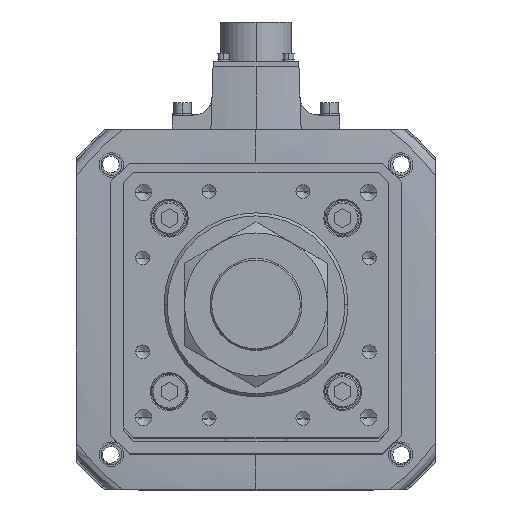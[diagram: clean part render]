
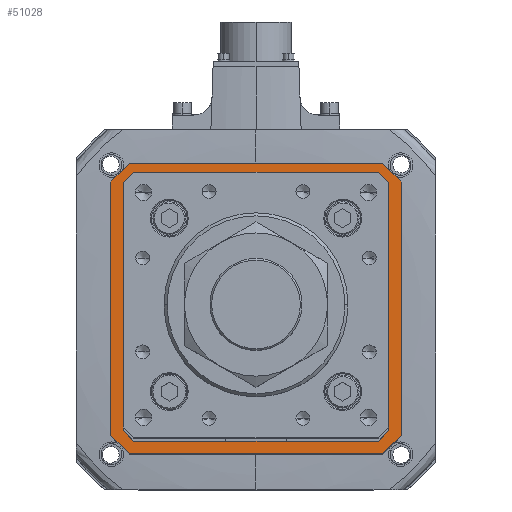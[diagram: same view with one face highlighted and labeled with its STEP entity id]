
A CAD part, top view. The second image highlights one B-rep face of the part: STEP entity #51028.
In plain terms, the highlighted planar face has unit normal (0, 0, 1).
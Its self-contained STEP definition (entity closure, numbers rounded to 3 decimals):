
#497 = EDGE_CURVE ( 'NONE', #30242, #25405, #46538, .T. ) ;
#727 = CARTESIAN_POINT ( 'NONE',  ( 0., -63., -142. ) ) ;
#962 = ORIENTED_EDGE ( 'NONE', *, *, #54569, .T. ) ;
#1192 = VECTOR ( 'NONE', #33557, 1000. ) ;
#1246 = VERTEX_POINT ( 'NONE', #19482 ) ;
#2504 = DIRECTION ( 'NONE',  ( 0.707, -0.707, 0. ) ) ;
#2941 = EDGE_LOOP ( 'NONE', ( #52284, #29735, #38946, #40662, #41504, #25655, #32197, #13533 ) ) ;
#3052 = VERTEX_POINT ( 'NONE', #31705 ) ;
#4367 = VERTEX_POINT ( 'NONE', #46190 ) ;
#5420 = CARTESIAN_POINT ( 'NONE',  ( 63., 58.793, -142. ) ) ;
#5855 = LINE ( 'NONE', #40706, #49859 ) ;
#6788 = DIRECTION ( 'NONE',  ( 1., 0., 0. ) ) ;
#8099 = DIRECTION ( 'NONE',  ( -0.707, 0.707, 0. ) ) ;
#8192 = CARTESIAN_POINT ( 'NONE',  ( 58.793, 63., -142. ) ) ;
#8259 = CARTESIAN_POINT ( 'NONE',  ( 63., 0., -142. ) ) ;
#8644 = LINE ( 'NONE', #15067, #43217 ) ;
#8793 = LINE ( 'NONE', #15358, #21443 ) ;
#9998 = CARTESIAN_POINT ( 'NONE',  ( 62., -71., -142. ) ) ;
#10630 = DIRECTION ( 'NONE',  ( 0.707, 0.707, 0. ) ) ;
#11400 = ORIENTED_EDGE ( 'NONE', *, *, #46320, .T. ) ;
#12088 = LINE ( 'NONE', #39167, #52727 ) ;
#12119 = CARTESIAN_POINT ( 'NONE',  ( 71., 62., -142. ) ) ;
#12514 = VERTEX_POINT ( 'NONE', #9998 ) ;
#12636 = EDGE_CURVE ( 'NONE', #34290, #40725, #31572, .T. ) ;
#13441 = VERTEX_POINT ( 'NONE', #39263 ) ;
#13533 = ORIENTED_EDGE ( 'NONE', *, *, #42456, .F. ) ;
#14743 = EDGE_CURVE ( 'NONE', #12514, #54793, #17352, .T. ) ;
#14955 = ORIENTED_EDGE ( 'NONE', *, *, #51066, .T. ) ;
#15067 = CARTESIAN_POINT ( 'NONE',  ( -60.896, 60.896, -142. ) ) ;
#15358 = CARTESIAN_POINT ( 'NONE',  ( -60.896, -60.896, -142. ) ) ;
#15517 = DIRECTION ( 'NONE',  ( -0.707, -0.707, 0. ) ) ;
#15874 = EDGE_CURVE ( 'NONE', #25405, #34290, #36544, .T. ) ;
#16601 = EDGE_CURVE ( 'NONE', #3052, #13441, #5855, .T. ) ;
#17147 = CARTESIAN_POINT ( 'NONE',  ( 0., 0., -142. ) ) ;
#17352 = LINE ( 'NONE', #54684, #38674 ) ;
#17877 = VECTOR ( 'NONE', #30400, 1000. ) ;
#18795 = VECTOR ( 'NONE', #27883, 1000. ) ;
#19372 = EDGE_LOOP ( 'NONE', ( #22730, #11400, #14955, #54049, #962, #32754, #44148, #22405 ) ) ;
#19482 = CARTESIAN_POINT ( 'NONE',  ( -63., 58.793, -142. ) ) ;
#19837 = VERTEX_POINT ( 'NONE', #41617 ) ;
#20559 = CARTESIAN_POINT ( 'NONE',  ( -63., -58.793, -142. ) ) ;
#20887 = AXIS2_PLACEMENT_3D ( 'NONE', #17147, #26273, #51246 ) ;
#20939 = VERTEX_POINT ( 'NONE', #8192 ) ;
#21085 = VECTOR ( 'NONE', #2504, 1000. ) ;
#21443 = VECTOR ( 'NONE', #8099, 1000. ) ;
#21551 = VECTOR ( 'NONE', #35595, 1000. ) ;
#21789 = FACE_OUTER_BOUND ( 'NONE', #2941, .T. ) ;
#21943 = LINE ( 'NONE', #37777, #27929 ) ;
#22405 = ORIENTED_EDGE ( 'NONE', *, *, #51624, .T. ) ;
#22728 = VERTEX_POINT ( 'NONE', #20559 ) ;
#22730 = ORIENTED_EDGE ( 'NONE', *, *, #30482, .T. ) ;
#23774 = LINE ( 'NONE', #43842, #25749 ) ;
#24607 = VERTEX_POINT ( 'NONE', #5420 ) ;
#25005 = CARTESIAN_POINT ( 'NONE',  ( -71., 62., -142. ) ) ;
#25018 = VERTEX_POINT ( 'NONE', #43336 ) ;
#25405 = VERTEX_POINT ( 'NONE', #48536 ) ;
#25655 = ORIENTED_EDGE ( 'NONE', *, *, #36689, .F. ) ;
#25749 = VECTOR ( 'NONE', #15517, 1000. ) ;
#26273 = DIRECTION ( 'NONE',  ( 0., 0., 1. ) ) ;
#26487 = VECTOR ( 'NONE', #34475, 1000. ) ;
#27428 = CARTESIAN_POINT ( 'NONE',  ( 62., 71., -142. ) ) ;
#27568 = VECTOR ( 'NONE', #6788, 1000. ) ;
#27883 = DIRECTION ( 'NONE',  ( 0., 1., 0. ) ) ;
#27915 = CARTESIAN_POINT ( 'NONE',  ( -62., 71., -142. ) ) ;
#27929 = VECTOR ( 'NONE', #46347, 1000. ) ;
#29106 = EDGE_CURVE ( 'NONE', #1246, #25018, #8644, .T. ) ;
#29378 = EDGE_CURVE ( 'NONE', #54793, #30242, #21943, .T. ) ;
#29726 = DIRECTION ( 'NONE',  ( -1., 0., 0. ) ) ;
#29735 = ORIENTED_EDGE ( 'NONE', *, *, #15874, .F. ) ;
#30196 = PLANE ( 'NONE',  #20887 ) ;
#30242 = VERTEX_POINT ( 'NONE', #37111 ) ;
#30400 = DIRECTION ( 'NONE',  ( 0., -1., 0. ) ) ;
#30482 = EDGE_CURVE ( 'NONE', #24607, #4367, #30547, .T. ) ;
#30547 = LINE ( 'NONE', #8259, #17877 ) ;
#31572 = LINE ( 'NONE', #40836, #27568 ) ;
#31705 = CARTESIAN_POINT ( 'NONE',  ( 71., 62., -142. ) ) ;
#32197 = ORIENTED_EDGE ( 'NONE', *, *, #16601, .F. ) ;
#32754 = ORIENTED_EDGE ( 'NONE', *, *, #29106, .T. ) ;
#33557 = DIRECTION ( 'NONE',  ( 0., 1., 0. ) ) ;
#33833 = VECTOR ( 'NONE', #50668, 1000. ) ;
#34290 = VERTEX_POINT ( 'NONE', #27915 ) ;
#34475 = DIRECTION ( 'NONE',  ( -1., 0., 0. ) ) ;
#34541 = DIRECTION ( 'NONE',  ( 1., 0., 0. ) ) ;
#35595 = DIRECTION ( 'NONE',  ( -0.707, -0.707, 0. ) ) ;
#36069 = CARTESIAN_POINT ( 'NONE',  ( 60.896, 60.896, -142. ) ) ;
#36247 = CARTESIAN_POINT ( 'NONE',  ( -62., 71., -142. ) ) ;
#36544 = LINE ( 'NONE', #36247, #51259 ) ;
#36689 = EDGE_CURVE ( 'NONE', #13441, #12514, #23774, .T. ) ;
#37111 = CARTESIAN_POINT ( 'NONE',  ( -71., -62., -142. ) ) ;
#37777 = CARTESIAN_POINT ( 'NONE',  ( -62., -71., -142. ) ) ;
#38094 = CARTESIAN_POINT ( 'NONE',  ( -62., -71., -142. ) ) ;
#38219 = LINE ( 'NONE', #43789, #21551 ) ;
#38674 = VECTOR ( 'NONE', #29726, 1000. ) ;
#38946 = ORIENTED_EDGE ( 'NONE', *, *, #497, .F. ) ;
#39167 = CARTESIAN_POINT ( 'NONE',  ( 0., 63., -142. ) ) ;
#39263 = CARTESIAN_POINT ( 'NONE',  ( 71., -62., -142. ) ) ;
#40662 = ORIENTED_EDGE ( 'NONE', *, *, #29378, .F. ) ;
#40706 = CARTESIAN_POINT ( 'NONE',  ( 71., 62., -142. ) ) ;
#40725 = VERTEX_POINT ( 'NONE', #27428 ) ;
#40836 = CARTESIAN_POINT ( 'NONE',  ( 62., 71., -142. ) ) ;
#41504 = ORIENTED_EDGE ( 'NONE', *, *, #14743, .F. ) ;
#41617 = CARTESIAN_POINT ( 'NONE',  ( 58.793, -63., -142. ) ) ;
#42456 = EDGE_CURVE ( 'NONE', #40725, #3052, #50502, .T. ) ;
#43217 = VECTOR ( 'NONE', #10630, 1000. ) ;
#43336 = CARTESIAN_POINT ( 'NONE',  ( -58.793, 63., -142. ) ) ;
#43742 = LINE ( 'NONE', #36069, #21085 ) ;
#43789 = CARTESIAN_POINT ( 'NONE',  ( 60.896, -60.896, -142. ) ) ;
#43842 = CARTESIAN_POINT ( 'NONE',  ( 71., -62., -142. ) ) ;
#44148 = ORIENTED_EDGE ( 'NONE', *, *, #48116, .T. ) ;
#44525 = CARTESIAN_POINT ( 'NONE',  ( -58.793, -63., -142. ) ) ;
#44817 = CARTESIAN_POINT ( 'NONE',  ( -63., 0., -142. ) ) ;
#46190 = CARTESIAN_POINT ( 'NONE',  ( 63., -58.793, -142. ) ) ;
#46320 = EDGE_CURVE ( 'NONE', #4367, #19837, #38219, .T. ) ;
#46347 = DIRECTION ( 'NONE',  ( -0.707, 0.707, 0. ) ) ;
#46538 = LINE ( 'NONE', #25005, #1192 ) ;
#47962 = EDGE_CURVE ( 'NONE', #54155, #22728, #8793, .T. ) ;
#48116 = EDGE_CURVE ( 'NONE', #25018, #20939, #12088, .T. ) ;
#48536 = CARTESIAN_POINT ( 'NONE',  ( -71., 62., -142. ) ) ;
#49859 = VECTOR ( 'NONE', #53788, 1000. ) ;
#50107 = LINE ( 'NONE', #44817, #18795 ) ;
#50502 = LINE ( 'NONE', #12119, #33833 ) ;
#50668 = DIRECTION ( 'NONE',  ( 0.707, -0.707, 0. ) ) ;
#51028 = ADVANCED_FACE ( 'NONE', ( #51822, #21789 ), #30196, .T. ) ;
#51066 = EDGE_CURVE ( 'NONE', #19837, #54155, #51126, .T. ) ;
#51126 = LINE ( 'NONE', #727, #26487 ) ;
#51246 = DIRECTION ( 'NONE',  ( 1., 0., 0. ) ) ;
#51259 = VECTOR ( 'NONE', #53055, 1000. ) ;
#51624 = EDGE_CURVE ( 'NONE', #20939, #24607, #43742, .T. ) ;
#51822 = FACE_BOUND ( 'NONE', #19372, .T. ) ;
#52284 = ORIENTED_EDGE ( 'NONE', *, *, #12636, .F. ) ;
#52727 = VECTOR ( 'NONE', #34541, 1000. ) ;
#53055 = DIRECTION ( 'NONE',  ( 0.707, 0.707, 0. ) ) ;
#53788 = DIRECTION ( 'NONE',  ( 0., -1., 0. ) ) ;
#54049 = ORIENTED_EDGE ( 'NONE', *, *, #47962, .T. ) ;
#54155 = VERTEX_POINT ( 'NONE', #44525 ) ;
#54569 = EDGE_CURVE ( 'NONE', #22728, #1246, #50107, .T. ) ;
#54684 = CARTESIAN_POINT ( 'NONE',  ( 62., -71., -142. ) ) ;
#54793 = VERTEX_POINT ( 'NONE', #38094 ) ;
